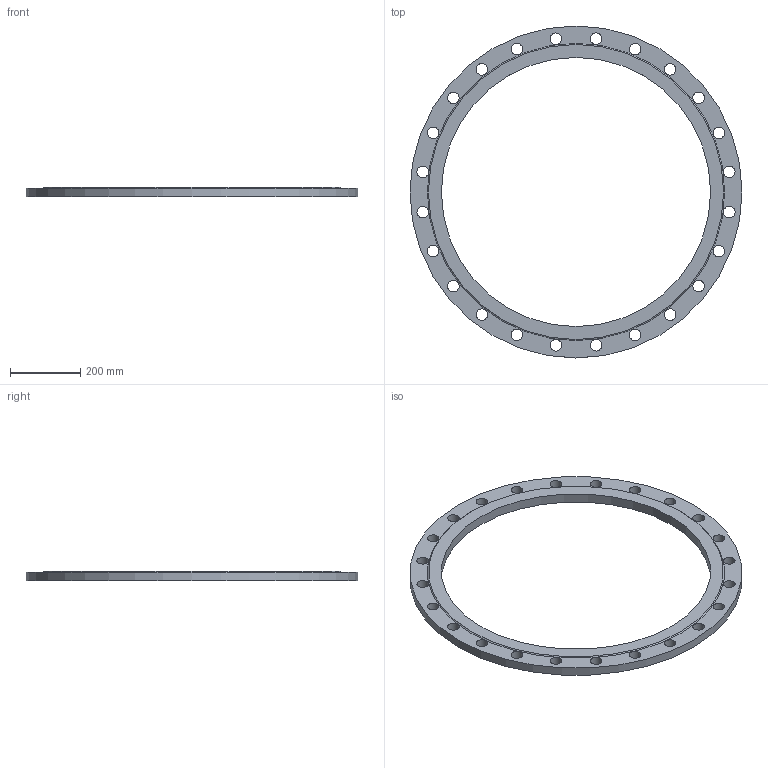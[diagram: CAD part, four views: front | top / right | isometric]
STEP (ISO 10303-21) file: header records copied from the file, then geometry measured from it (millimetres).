
FILE_DESCRIPTION(/* description */ (''),/* implementation_level */ '2;1');
FILE_NAME(/* name */ 'C:\Users\D\Documents\Inventor\HP\JIS\フランジ\JIS 5k sop rf\jis5k-sop-rf-750.stp',/* time_stamp */ '2024-09-12T17:02:28+09:00',/* author */ ('D'),/* organization */ (''),/* preprocessor_version */ 'ST-DEVELOPER v18',/* originating_system */ 'Autodesk Inventor 2020',/* authorisation */ '');
FILE_SCHEMA (('AUTOMOTIVE_DESIGN { 1 0 10303 214 3 1 1 }'));
Length unit declared in the file: millimetre
Products named in the file (1): jis5k-sop-rf-10
Bounding box: 945 x 945 x 28 mm (x, y, z)
Volume: 5785523.2 mm3; surface area: 648359.3 mm2
Topology: 1 solids, 1 shells, 30 faces, 86 edges, 59 vertices
Faces by surface type: cylinder 26, plane 3, torus 1
Full cylindrical faces by diameter (mm): 33 x24, 766 x1, 945 x1
Entity records: 1171 total; most frequent: DIRECTION 208, CARTESIAN_POINT 176, ORIENTED_EDGE 172, AXIS2_PLACEMENT_3D 91, EDGE_CURVE 86, EDGE_LOOP 81, CIRCLE 60, VERTEX_POINT 59
